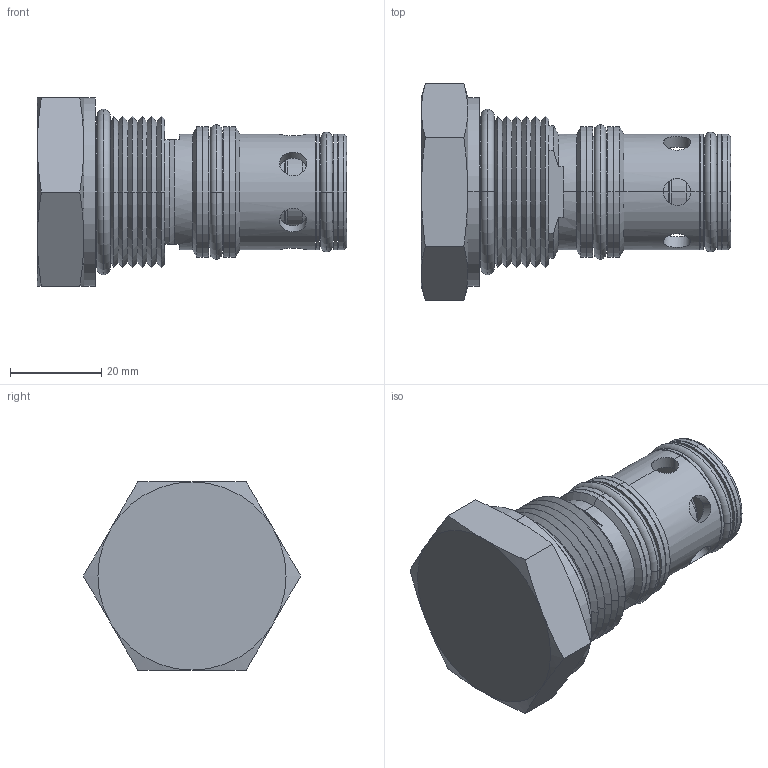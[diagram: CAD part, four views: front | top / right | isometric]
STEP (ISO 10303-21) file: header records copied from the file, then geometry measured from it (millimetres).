
FILE_DESCRIPTION((''),'2;1');
FILE_NAME('U:\Solid model CD\Solid model full\Mechanical\STEP\SLPLC00-3D Full.stp','2008-07-29T10:03:02',('Dan'),(''),'Autodesk Inventor 9','Autodesk Inventor 9','');
FILE_SCHEMA(('AUTOMOTIVE_DESIGN { 1 0 10303 214 1 1 1 1 }'));
Length unit declared in the file: inch
Products named in the file (9): SLPLC00-3D Full; SLPLC00-3D Full1; SLPLC00-3D Full2; SLPLC00-3D Full3; SLPLC00-3D Full4; SLPLC00-3D Full5; SLPLC00-3D Full6; SLPLC00-3D Full7; SLPLC00-3D Full8
Assembly tree (8 placements, depth 2):
  SLPLC00-3D Full
    SLPLC00-3D Full1
    SLPLC00-3D Full2
    SLPLC00-3D Full3
    SLPLC00-3D Full4
    SLPLC00-3D Full5
    SLPLC00-3D Full6
    SLPLC00-3D Full7
    SLPLC00-3D Full8
Bounding box: 67.82 x 47.66 x 41.27 mm (x, y, z)
Volume: 49437.7 mm3; surface area: 16843.7 mm2
Topology: 8 solids, 8 shells, 185 faces, 434 edges, 268 vertices
Faces by surface type: cylinder 70, cone 46, plane 35, torus 18, bspline 16
Entity records: 6552 total; most frequent: CARTESIAN_POINT 2002, DIRECTION 1004, ORIENTED_EDGE 868, AXIS2_PLACEMENT_3D 442, EDGE_CURVE 434, VERTEX_POINT 268, CIRCLE 256, EDGE_LOOP 214
